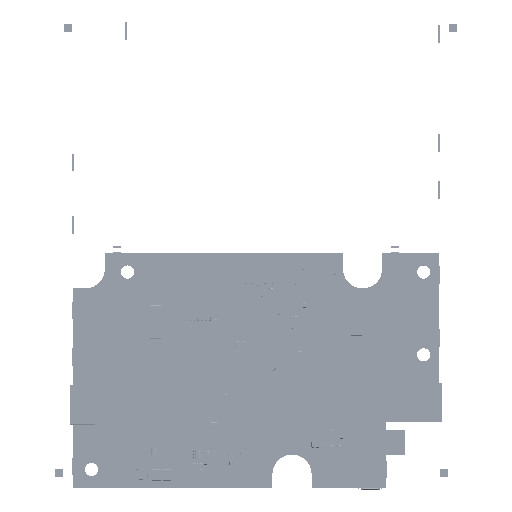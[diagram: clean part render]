
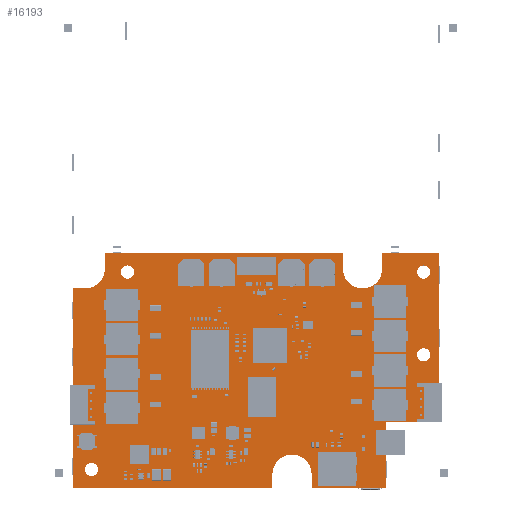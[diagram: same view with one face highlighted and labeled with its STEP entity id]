
A CAD part, top view. The second image highlights one B-rep face of the part: STEP entity #16193.
In plain terms, the highlighted planar face has unit normal (0, 0, 1).
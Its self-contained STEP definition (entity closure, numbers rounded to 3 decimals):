
#16193=ADVANCED_FACE('',(#28393,#28394,#28395,#28396,#28397),#28398,.T.);
#28393=FACE_BOUND('',#40100,.T.);
#28394=FACE_BOUND('',#40101,.T.);
#28395=FACE_BOUND('',#40102,.T.);
#28396=FACE_BOUND('',#40103,.T.);
#28397=FACE_OUTER_BOUND('',#40104,.T.);
#28398=PLANE('',#40105);
#40100=EDGE_LOOP('',(#55452));
#40101=EDGE_LOOP('',(#55453));
#40102=EDGE_LOOP('',(#55454));
#40103=EDGE_LOOP('',(#55455));
#40104=EDGE_LOOP('',(#55456,#55457,#55458,#55459,#55460,#55461,#55462,#55463,#55464,#55465,#55466,#55467,#55468,#55469,#55470,#55471,#55472));
#40105=AXIS2_PLACEMENT_3D('',#55473,#55474,#55475);
#55452=ORIENTED_EDGE('',*,*,#77708,.T.);
#55453=ORIENTED_EDGE('',*,*,#77711,.T.);
#55454=ORIENTED_EDGE('',*,*,#77714,.T.);
#55455=ORIENTED_EDGE('',*,*,#77717,.T.);
#55456=ORIENTED_EDGE('',*,*,#77720,.T.);
#55457=ORIENTED_EDGE('',*,*,#77721,.T.);
#55458=ORIENTED_EDGE('',*,*,#77722,.T.);
#55459=ORIENTED_EDGE('',*,*,#77723,.T.);
#55460=ORIENTED_EDGE('',*,*,#77724,.T.);
#55461=ORIENTED_EDGE('',*,*,#77725,.T.);
#55462=ORIENTED_EDGE('',*,*,#77726,.T.);
#55463=ORIENTED_EDGE('',*,*,#77727,.T.);
#55464=ORIENTED_EDGE('',*,*,#77728,.T.);
#55465=ORIENTED_EDGE('',*,*,#77729,.T.);
#55466=ORIENTED_EDGE('',*,*,#77730,.T.);
#55467=ORIENTED_EDGE('',*,*,#77731,.T.);
#55468=ORIENTED_EDGE('',*,*,#77732,.T.);
#55469=ORIENTED_EDGE('',*,*,#77733,.T.);
#55470=ORIENTED_EDGE('',*,*,#77734,.T.);
#55471=ORIENTED_EDGE('',*,*,#77735,.T.);
#55472=ORIENTED_EDGE('',*,*,#77736,.T.);
#55473=CARTESIAN_POINT('',(60.07,37.993,1.6));
#55474=DIRECTION('',(0.,0.,1.0));
#55475=DIRECTION('',(1.0,0.0,0.));
#77708=EDGE_CURVE('',#90157,#90157,#90158,.T.);
#77711=EDGE_CURVE('',#90162,#90162,#90163,.T.);
#77714=EDGE_CURVE('',#90167,#90167,#90168,.T.);
#77717=EDGE_CURVE('',#90172,#90172,#90173,.T.);
#77720=EDGE_CURVE('',#90177,#90178,#90179,.T.);
#77721=EDGE_CURVE('',#90178,#90180,#90181,.T.);
#77722=EDGE_CURVE('',#90180,#90182,#90183,.T.);
#77723=EDGE_CURVE('',#90182,#90184,#90185,.T.);
#77724=EDGE_CURVE('',#90184,#90186,#90187,.T.);
#77725=EDGE_CURVE('',#90186,#90188,#90189,.T.);
#77726=EDGE_CURVE('',#90188,#90190,#90191,.T.);
#77727=EDGE_CURVE('',#90190,#90192,#90193,.T.);
#77728=EDGE_CURVE('',#90192,#90194,#90195,.T.);
#77729=EDGE_CURVE('',#90194,#90196,#90197,.T.);
#77730=EDGE_CURVE('',#90196,#90198,#90199,.T.);
#77731=EDGE_CURVE('',#90198,#90200,#90201,.T.);
#77732=EDGE_CURVE('',#90200,#90202,#90203,.T.);
#77733=EDGE_CURVE('',#90202,#90204,#90205,.T.);
#77734=EDGE_CURVE('',#90204,#90206,#90207,.T.);
#77735=EDGE_CURVE('',#90206,#90208,#90209,.T.);
#77736=EDGE_CURVE('',#90208,#90177,#90210,.T.);
#90157=VERTEX_POINT('',#109048);
#90158=CIRCLE('',#109049,2.1);
#90162=VERTEX_POINT('',#109053);
#90163=CIRCLE('',#109054,2.1);
#90167=VERTEX_POINT('',#109058);
#90168=CIRCLE('',#109059,2.1);
#90172=VERTEX_POINT('',#109063);
#90173=CIRCLE('',#109064,2.1);
#90177=VERTEX_POINT('',#109068);
#90178=VERTEX_POINT('',#109069);
#90179=LINE('',#109070,#109071);
#90180=VERTEX_POINT('',#109072);
#90181=LINE('',#109073,#109074);
#90182=VERTEX_POINT('',#109075);
#90183=CIRCLE('',#109076,6.25);
#90184=VERTEX_POINT('',#109077);
#90185=LINE('',#109078,#109079);
#90186=VERTEX_POINT('',#109080);
#90187=LINE('',#109081,#109082);
#90188=VERTEX_POINT('',#109083);
#90189=LINE('',#109084,#109085);
#90190=VERTEX_POINT('',#109086);
#90191=LINE('',#109087,#109088);
#90192=VERTEX_POINT('',#109089);
#90193=LINE('',#109090,#109091);
#90194=VERTEX_POINT('',#109092);
#90195=LINE('',#109093,#109094);
#90196=VERTEX_POINT('',#109095);
#90197=LINE('',#109096,#109097);
#90198=VERTEX_POINT('',#109098);
#90199=CIRCLE('',#109099,6.25);
#90200=VERTEX_POINT('',#109100);
#90201=LINE('',#109101,#109102);
#90202=VERTEX_POINT('',#109103);
#90203=LINE('',#109104,#109105);
#90204=VERTEX_POINT('',#109106);
#90205=LINE('',#109107,#109108);
#90206=VERTEX_POINT('',#109109);
#90207=CIRCLE('',#109110,6.25);
#90208=VERTEX_POINT('',#109111);
#90209=LINE('',#109112,#109113);
#90210=LINE('',#109114,#109115);
#109048=CARTESIAN_POINT('',(109.9,69.0,1.6));
#109049=AXIS2_PLACEMENT_3D('',#132756,#132757,#132758);
#109053=CARTESIAN_POINT('',(3.9,6.0,1.6));
#109054=AXIS2_PLACEMENT_3D('',#132762,#132763,#132764);
#109058=CARTESIAN_POINT('',(15.4,69.0,1.6));
#109059=AXIS2_PLACEMENT_3D('',#132768,#132769,#132770);
#109063=CARTESIAN_POINT('',(109.9,42.6,1.6));
#109064=AXIS2_PLACEMENT_3D('',#132774,#132775,#132776);
#109068=CARTESIAN_POINT('',(-0.004,0.016,1.6));
#109069=CARTESIAN_POINT('',(63.746,0.016,1.6));
#109070=CARTESIAN_POINT('',(31.871,0.016,1.6));
#109071=VECTOR('',#132780,1.0);
#109072=CARTESIAN_POINT('',(63.746,4.516,1.6));
#109073=CARTESIAN_POINT('',(63.746,2.266,1.6));
#109074=VECTOR('',#132781,1.0);
#109075=CARTESIAN_POINT('',(76.246,4.516,1.6));
#109076=AXIS2_PLACEMENT_3D('',#132782,#132783,#132784);
#109077=CARTESIAN_POINT('',(76.246,0.016,1.6));
#109078=CARTESIAN_POINT('',(76.246,2.266,1.6));
#109079=VECTOR('',#132785,1.0);
#109080=CARTESIAN_POINT('',(99.996,0.016,1.6));
#109081=CARTESIAN_POINT('',(88.121,0.016,1.6));
#109082=VECTOR('',#132786,1.0);
#109083=CARTESIAN_POINT('',(99.996,21.016,1.6));
#109084=CARTESIAN_POINT('',(99.996,10.516,1.6));
#109085=VECTOR('',#132787,1.0);
#109086=CARTESIAN_POINT('',(116.996,21.016,1.6));
#109087=CARTESIAN_POINT('',(108.496,21.016,1.6));
#109088=VECTOR('',#132788,1.0);
#109089=CARTESIAN_POINT('',(116.996,75.016,1.6));
#109090=CARTESIAN_POINT('',(116.996,48.016,1.6));
#109091=VECTOR('',#132789,1.0);
#109092=CARTESIAN_POINT('',(98.746,75.016,1.6));
#109093=CARTESIAN_POINT('',(107.871,75.016,1.6));
#109094=VECTOR('',#132790,1.0);
#109095=CARTESIAN_POINT('',(98.746,70.016,1.6));
#109096=CARTESIAN_POINT('',(98.746,72.516,1.6));
#109097=VECTOR('',#132791,1.0);
#109098=CARTESIAN_POINT('',(86.246,70.016,1.6));
#109099=AXIS2_PLACEMENT_3D('',#132792,#132793,#132794);
#109100=CARTESIAN_POINT('',(86.246,75.016,1.6));
#109101=CARTESIAN_POINT('',(86.246,72.516,1.6));
#109102=VECTOR('',#132795,1.0);
#109103=CARTESIAN_POINT('',(10.246,75.016,1.6));
#109104=CARTESIAN_POINT('',(48.246,75.016,1.6));
#109105=VECTOR('',#132796,1.0);
#109106=CARTESIAN_POINT('',(10.246,70.016,1.6));
#109107=CARTESIAN_POINT('',(10.246,72.516,1.6));
#109108=VECTOR('',#132797,1.0);
#109109=CARTESIAN_POINT('',(3.996,63.766,1.6));
#109110=AXIS2_PLACEMENT_3D('',#132798,#132799,#132800);
#109111=CARTESIAN_POINT('',(-0.004,63.766,1.6));
#109112=CARTESIAN_POINT('',(1.996,63.766,1.6));
#109113=VECTOR('',#132801,1.0);
#109114=CARTESIAN_POINT('',(-0.004,31.891,1.6));
#109115=VECTOR('',#132802,1.0);
#132756=CARTESIAN_POINT('',(112.0,69.0,1.6));
#132757=DIRECTION('',(0.,0.,-1.0));
#132758=DIRECTION('',(-1.0,0.,0.));
#132762=CARTESIAN_POINT('',(6.0,6.0,1.6));
#132763=DIRECTION('',(0.,0.,-1.0));
#132764=DIRECTION('',(-1.0,0.,0.));
#132768=CARTESIAN_POINT('',(17.5,69.0,1.6));
#132769=DIRECTION('',(0.,0.,-1.0));
#132770=DIRECTION('',(-1.0,0.,0.));
#132774=CARTESIAN_POINT('',(112.0,42.6,1.6));
#132775=DIRECTION('',(0.,0.,-1.0));
#132776=DIRECTION('',(-1.0,0.,0.));
#132780=DIRECTION('',(1.0,0.0,0.0));
#132781=DIRECTION('',(0.0,1.0,0.0));
#132782=CARTESIAN_POINT('',(69.996,4.516,1.6));
#132783=DIRECTION('',(0.0,0.0,-1.0));
#132784=DIRECTION('',(-1.0,0.0,0.0));
#132785=DIRECTION('',(0.,-1.0,0.0));
#132786=DIRECTION('',(1.0,0.,0.0));
#132787=DIRECTION('',(0.0,1.0,0.0));
#132788=DIRECTION('',(1.0,0.0,0.0));
#132789=DIRECTION('',(0.0,1.0,0.0));
#132790=DIRECTION('',(-1.0,0.0,0.0));
#132791=DIRECTION('',(0.0,-1.0,0.0));
#132792=CARTESIAN_POINT('',(92.496,70.016,1.6));
#132793=DIRECTION('',(0.0,0.0,-1.0));
#132794=DIRECTION('',(1.,0.,0.0));
#132795=DIRECTION('',(0.,1.,0.0));
#132796=DIRECTION('',(-1.0,0.0,0.0));
#132797=DIRECTION('',(0.,-1.0,0.0));
#132798=CARTESIAN_POINT('',(3.996,70.016,1.6));
#132799=DIRECTION('',(0.0,0.0,-1.0));
#132800=DIRECTION('',(1.,0.,0.0));
#132801=DIRECTION('',(-1.0,0.,0.0));
#132802=DIRECTION('',(0.,-1.0,0.0));
